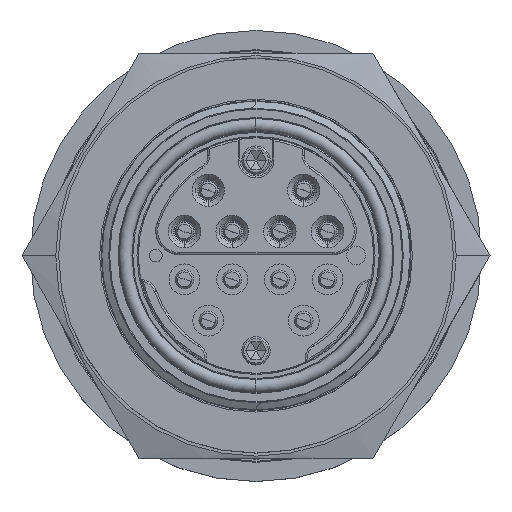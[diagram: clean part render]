
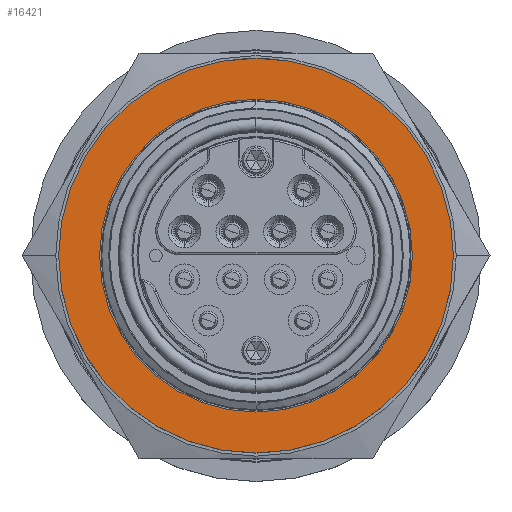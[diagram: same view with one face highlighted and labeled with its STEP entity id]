
A CAD part, top view. The second image highlights one B-rep face of the part: STEP entity #16421.
In plain terms, the highlighted planar face has unit normal (0, 0, 1).
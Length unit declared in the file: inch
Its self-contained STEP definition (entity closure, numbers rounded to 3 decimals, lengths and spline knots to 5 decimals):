
#600 = CARTESIAN_POINT ( 'NONE',  ( 0., 1.035, -0.502 ) ) ;
#963 = CARTESIAN_POINT ( 'NONE',  ( 0., 0., -0.502 ) ) ;
#1815 = CARTESIAN_POINT ( 'NONE',  ( 0., 0., -0.502 ) ) ;
#1832 = ORIENTED_EDGE ( 'NONE', *, *, #16320, .F. ) ;
#1853 = ORIENTED_EDGE ( 'NONE', *, *, #24966, .T. ) ;
#3567 = DIRECTION ( 'NONE',  ( 0., 0., 1. ) ) ;
#3979 = EDGE_LOOP ( 'NONE', ( #22316, #1853 ) ) ;
#4147 = CARTESIAN_POINT ( 'NONE',  ( -1.035, 0., -0.502 ) ) ;
#8229 = DIRECTION ( 'NONE',  ( 0., 0., 1. ) ) ;
#8588 = CIRCLE ( 'NONE', #38000, 1.035 ) ;
#11938 = CIRCLE ( 'NONE', #22186, 1.035 ) ;
#12584 = CARTESIAN_POINT ( 'NONE',  ( 0., -0.82, -0.502 ) ) ;
#13617 = DIRECTION ( 'NONE',  ( 0., 1., 0. ) ) ;
#16232 = DIRECTION ( 'NONE',  ( 0., 1., 0. ) ) ;
#16320 = EDGE_CURVE ( 'NONE', #31748, #33000, #18624, .T. ) ;
#16421 = ADVANCED_FACE ( 'NONE', ( #36894, #26430 ), #23397, .F. ) ;
#16579 = AXIS2_PLACEMENT_3D ( 'NONE', #1815, #8229, #30734 ) ;
#17816 = AXIS2_PLACEMENT_3D ( 'NONE', #36103, #3567, #16232 ) ;
#18372 = VERTEX_POINT ( 'NONE', #600 ) ;
#18624 = CIRCLE ( 'NONE', #16579, 0.82 ) ;
#20961 = DIRECTION ( 'NONE',  ( 0., 0., 1. ) ) ;
#22186 = AXIS2_PLACEMENT_3D ( 'NONE', #26742, #20961, #27596 ) ;
#22316 = ORIENTED_EDGE ( 'NONE', *, *, #29068, .T. ) ;
#23187 = DIRECTION ( 'NONE',  ( 0., 0., -1. ) ) ;
#23397 = PLANE ( 'NONE',  #25478 ) ;
#24909 = CARTESIAN_POINT ( 'NONE',  ( 0., -1.035, -0.502 ) ) ;
#24966 = EDGE_CURVE ( 'NONE', #40643, #18372, #8588, .T. ) ;
#25478 = AXIS2_PLACEMENT_3D ( 'NONE', #4147, #23187, #29858 ) ;
#26430 = FACE_OUTER_BOUND ( 'NONE', #3979, .T. ) ;
#26649 = DIRECTION ( 'NONE',  ( 0., 0., 1. ) ) ;
#26742 = CARTESIAN_POINT ( 'NONE',  ( 0., 0., -0.502 ) ) ;
#27159 = ORIENTED_EDGE ( 'NONE', *, *, #39995, .F. ) ;
#27596 = DIRECTION ( 'NONE',  ( 0., 1., 0. ) ) ;
#29068 = EDGE_CURVE ( 'NONE', #18372, #40643, #11938, .T. ) ;
#29858 = DIRECTION ( 'NONE',  ( 0., -1., 0. ) ) ;
#30734 = DIRECTION ( 'NONE',  ( 0., 1., 0. ) ) ;
#31748 = VERTEX_POINT ( 'NONE', #12584 ) ;
#33000 = VERTEX_POINT ( 'NONE', #37695 ) ;
#34124 = CIRCLE ( 'NONE', #17816, 0.82 ) ;
#36103 = CARTESIAN_POINT ( 'NONE',  ( 0., 0., -0.502 ) ) ;
#36499 = EDGE_LOOP ( 'NONE', ( #27159, #1832 ) ) ;
#36894 = FACE_BOUND ( 'NONE', #36499, .T. ) ;
#37695 = CARTESIAN_POINT ( 'NONE',  ( 0., 0.82, -0.502 ) ) ;
#38000 = AXIS2_PLACEMENT_3D ( 'NONE', #963, #26649, #13617 ) ;
#39995 = EDGE_CURVE ( 'NONE', #33000, #31748, #34124, .T. ) ;
#40643 = VERTEX_POINT ( 'NONE', #24909 ) ;
